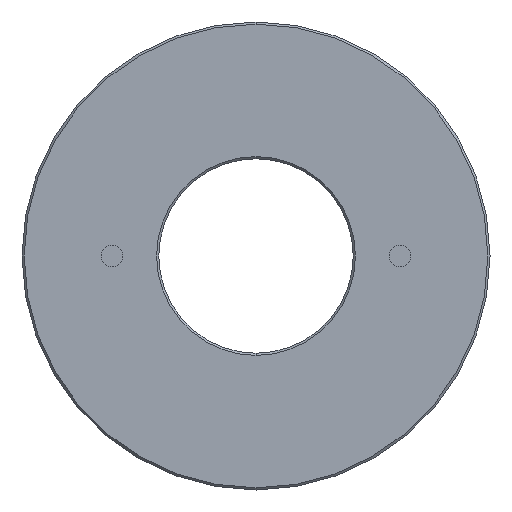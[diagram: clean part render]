
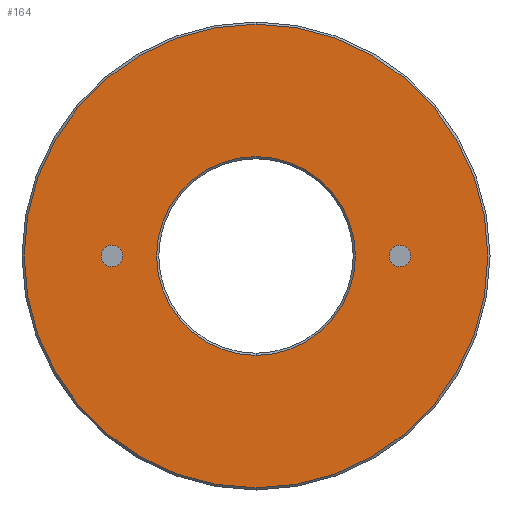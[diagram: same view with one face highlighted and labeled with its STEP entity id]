
A CAD part, front view. The second image highlights one B-rep face of the part: STEP entity #164.
In plain terms, the highlighted planar face has unit normal (0, -1, 0).
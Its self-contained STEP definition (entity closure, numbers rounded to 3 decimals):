
#9 = EDGE_LOOP ( 'NONE', ( #181, #535 ) ) ;
#20 = DIRECTION ( 'NONE',  ( 0., -1., 0. ) ) ;
#33 = CARTESIAN_POINT ( 'NONE',  ( -20., 0., 1.5 ) ) ;
#35 = CIRCLE ( 'NONE', #489, 1.5 ) ;
#40 = EDGE_CURVE ( 'NONE', #75, #401, #406, .T. ) ;
#49 = CARTESIAN_POINT ( 'NONE',  ( 20., 0., -1.5 ) ) ;
#57 = CARTESIAN_POINT ( 'NONE',  ( 0., 0., -13.8 ) ) ;
#75 = VERTEX_POINT ( 'NONE', #313 ) ;
#78 = DIRECTION ( 'NONE',  ( 0., -1., 0. ) ) ;
#88 = DIRECTION ( 'NONE',  ( 0., 0., 1. ) ) ;
#104 = CARTESIAN_POINT ( 'NONE',  ( 0., 0., 0. ) ) ;
#105 = CIRCLE ( 'NONE', #588, 13.8 ) ;
#108 = DIRECTION ( 'NONE',  ( 0., 1., 0. ) ) ;
#119 = AXIS2_PLACEMENT_3D ( 'NONE', #346, #20, #415 ) ;
#123 = CARTESIAN_POINT ( 'NONE',  ( 0., 0., 0. ) ) ;
#145 = CIRCLE ( 'NONE', #546, 32.2 ) ;
#148 = EDGE_CURVE ( 'NONE', #265, #149, #35, .T. ) ;
#149 = VERTEX_POINT ( 'NONE', #662 ) ;
#164 = ADVANCED_FACE ( 'NONE', ( #259, #333, #524, #264 ), #605, .F. ) ;
#180 = EDGE_LOOP ( 'NONE', ( #307, #515 ) ) ;
#181 = ORIENTED_EDGE ( 'NONE', *, *, #328, .F. ) ;
#189 = CARTESIAN_POINT ( 'NONE',  ( 20., 0., 0. ) ) ;
#191 = CARTESIAN_POINT ( 'NONE',  ( 0., 0., 0. ) ) ;
#205 = CARTESIAN_POINT ( 'NONE',  ( -20., 0., 0. ) ) ;
#212 = CIRCLE ( 'NONE', #807, 32.2 ) ;
#227 = ORIENTED_EDGE ( 'NONE', *, *, #569, .F. ) ;
#250 = DIRECTION ( 'NONE',  ( 0., 0., 1. ) ) ;
#259 = FACE_BOUND ( 'NONE', #606, .T. ) ;
#264 = FACE_BOUND ( 'NONE', #274, .T. ) ;
#265 = VERTEX_POINT ( 'NONE', #33 ) ;
#273 = DIRECTION ( 'NONE',  ( 0., 0., 1. ) ) ;
#274 = EDGE_LOOP ( 'NONE', ( #227, #516 ) ) ;
#278 = DIRECTION ( 'NONE',  ( 0., -1., 0. ) ) ;
#282 = CIRCLE ( 'NONE', #831, 13.8 ) ;
#290 = CARTESIAN_POINT ( 'NONE',  ( 20., 0., 0. ) ) ;
#307 = ORIENTED_EDGE ( 'NONE', *, *, #763, .T. ) ;
#313 = CARTESIAN_POINT ( 'NONE',  ( 20., 0., 1.5 ) ) ;
#328 = EDGE_CURVE ( 'NONE', #149, #265, #845, .T. ) ;
#333 = FACE_OUTER_BOUND ( 'NONE', #180, .T. ) ;
#336 = DIRECTION ( 'NONE',  ( 0., 0., -1. ) ) ;
#346 = CARTESIAN_POINT ( 'NONE',  ( -20., 0., 0. ) ) ;
#348 = CARTESIAN_POINT ( 'NONE',  ( 0., 0., -32.2 ) ) ;
#361 = DIRECTION ( 'NONE',  ( 0., -1., 0. ) ) ;
#401 = VERTEX_POINT ( 'NONE', #49 ) ;
#404 = EDGE_CURVE ( 'NONE', #685, #442, #282, .T. ) ;
#406 = CIRCLE ( 'NONE', #420, 1.5 ) ;
#415 = DIRECTION ( 'NONE',  ( 0., 0., -1. ) ) ;
#420 = AXIS2_PLACEMENT_3D ( 'NONE', #290, #361, #553 ) ;
#429 = DIRECTION ( 'NONE',  ( 0., -1., 0. ) ) ;
#437 = CARTESIAN_POINT ( 'NONE',  ( 0., 0., 0. ) ) ;
#442 = VERTEX_POINT ( 'NONE', #57 ) ;
#449 = DIRECTION ( 'NONE',  ( 0., 0., -1. ) ) ;
#456 = EDGE_CURVE ( 'NONE', #442, #685, #105, .T. ) ;
#458 = DIRECTION ( 'NONE',  ( 0., -1., 0. ) ) ;
#482 = CARTESIAN_POINT ( 'NONE',  ( 0., 0., 0. ) ) ;
#489 = AXIS2_PLACEMENT_3D ( 'NONE', #205, #78, #336 ) ;
#510 = CARTESIAN_POINT ( 'NONE',  ( 0., 0., 32.2 ) ) ;
#515 = ORIENTED_EDGE ( 'NONE', *, *, #727, .T. ) ;
#516 = ORIENTED_EDGE ( 'NONE', *, *, #40, .F. ) ;
#524 = FACE_BOUND ( 'NONE', #9, .T. ) ;
#535 = ORIENTED_EDGE ( 'NONE', *, *, #148, .F. ) ;
#546 = AXIS2_PLACEMENT_3D ( 'NONE', #437, #429, #567 ) ;
#553 = DIRECTION ( 'NONE',  ( 0., 0., -1. ) ) ;
#567 = DIRECTION ( 'NONE',  ( 0., 0., 1. ) ) ;
#569 = EDGE_CURVE ( 'NONE', #401, #75, #765, .T. ) ;
#575 = DIRECTION ( 'NONE',  ( 0., 1., 0. ) ) ;
#588 = AXIS2_PLACEMENT_3D ( 'NONE', #104, #108, #250 ) ;
#605 = PLANE ( 'NONE',  #706 ) ;
#606 = EDGE_LOOP ( 'NONE', ( #731, #775 ) ) ;
#662 = CARTESIAN_POINT ( 'NONE',  ( -20., 0., -1.5 ) ) ;
#685 = VERTEX_POINT ( 'NONE', #818 ) ;
#706 = AXIS2_PLACEMENT_3D ( 'NONE', #191, #718, #273 ) ;
#718 = DIRECTION ( 'NONE',  ( 0., 1., 0. ) ) ;
#727 = EDGE_CURVE ( 'NONE', #757, #838, #212, .T. ) ;
#731 = ORIENTED_EDGE ( 'NONE', *, *, #456, .T. ) ;
#757 = VERTEX_POINT ( 'NONE', #348 ) ;
#763 = EDGE_CURVE ( 'NONE', #838, #757, #145, .T. ) ;
#765 = CIRCLE ( 'NONE', #832, 1.5 ) ;
#775 = ORIENTED_EDGE ( 'NONE', *, *, #404, .T. ) ;
#807 = AXIS2_PLACEMENT_3D ( 'NONE', #482, #278, #88 ) ;
#818 = CARTESIAN_POINT ( 'NONE',  ( 0., 0., 13.8 ) ) ;
#826 = DIRECTION ( 'NONE',  ( 0., 0., 1. ) ) ;
#831 = AXIS2_PLACEMENT_3D ( 'NONE', #123, #575, #826 ) ;
#832 = AXIS2_PLACEMENT_3D ( 'NONE', #189, #458, #449 ) ;
#838 = VERTEX_POINT ( 'NONE', #510 ) ;
#845 = CIRCLE ( 'NONE', #119, 1.5 ) ;
